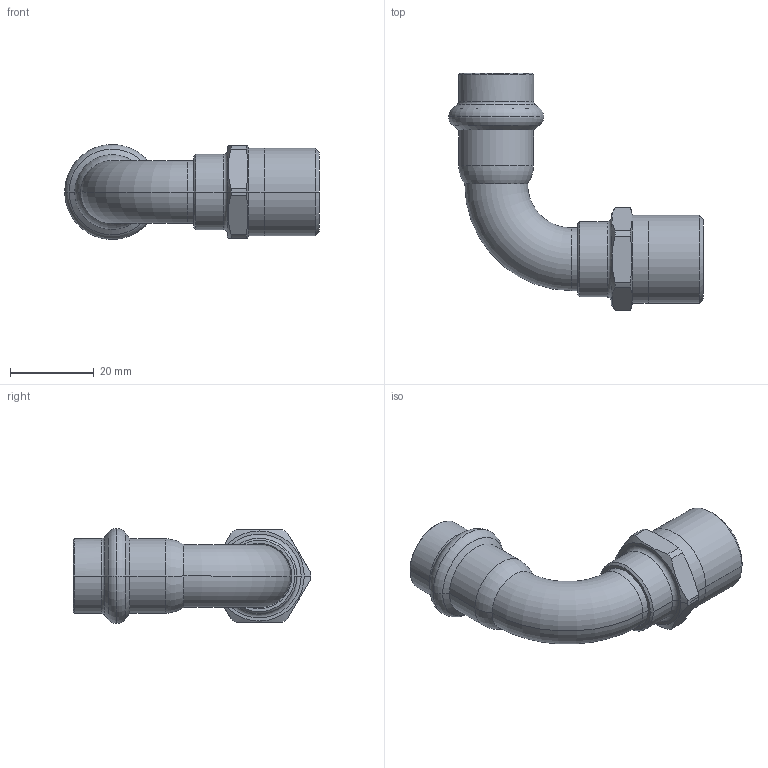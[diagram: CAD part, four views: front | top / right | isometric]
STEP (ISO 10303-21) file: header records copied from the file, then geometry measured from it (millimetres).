
FILE_DESCRIPTION(('CoCreate Modeling STEP Export'),'2;1');
FILE_NAME('8092GVW1512.stp','2013-03-05T11:21:03',(''),(''),'CoCreate Modeling STEP processor for AP214 (Solid Model)','CoCreate Modeling 17.00A 17-Jun-2010 (C) Parametric Technology GmbH','');
FILE_SCHEMA(('AUTOMOTIVE_DESIGN { 1 0 10303 214 1 1 1 1 }'));
Length unit declared in the file: millimetre
Products named in the file (2): 8092GVW1512
Assembly tree (1 placements, depth 2):
  8092GVW1512
    8092GVW1512
Bounding box: 60.85 x 56.73 x 22.69 mm (x, y, z)
Volume: 9441.7 mm3; surface area: 9383.1 mm2
Topology: 1 solids, 1 shells, 87 faces, 191 edges, 111 vertices
Faces by surface type: cylinder 34, cone 22, torus 18, plane 13
Entity records: 2632 total; most frequent: CARTESIAN_POINT 976, ORIENTED_EDGE 382, DIRECTION 276, EDGE_CURVE 191, VERTEX_POINT 111, AXIS2_PLACEMENT_3D 107, EDGE_LOOP 94, FACE_OUTER_BOUND 87
